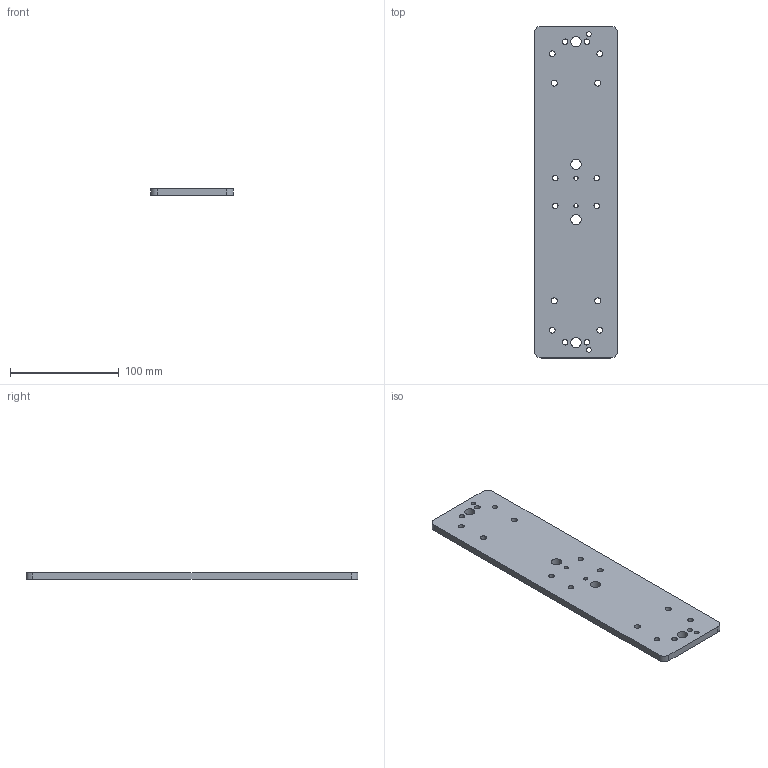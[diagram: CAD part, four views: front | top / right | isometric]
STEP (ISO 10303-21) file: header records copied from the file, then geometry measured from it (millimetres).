
FILE_DESCRIPTION (( 'STEP AP203' ), '1' );
FILE_NAME ('AFSB-621-L300.STEP', '2020-12-03T14:17:21', ( '' ), ( '' ), 'SwSTEP 2.0', 'SolidWorks 2020', '' );
FILE_SCHEMA (( 'CONFIG_CONTROL_DESIGN' ));
Length unit declared in the file: inch
Products named in the file (1): AFSB-621-L300
Bounding box: 76.2 x 304.8 x 6.35 mm (x, y, z)
Volume: 142979.6 mm3; surface area: 52538.7 mm2
Topology: 1 solids, 1 shells, 34 faces, 100 edges, 68 vertices
Faces by surface type: cylinder 28, plane 6
Full cylindrical faces by diameter (mm): 3.797 x2, 4.2 x2, 5 x4, 5.105 x8, 5.556 x4, 9.525 x4
Entity records: 1191 total; most frequent: DIRECTION 198, CARTESIAN_POINT 171, ORIENTED_EDGE 144, EDGE_LOOP 106, AXIS2_PLACEMENT_3D 91, EDGE_CURVE 72, VERTEX_POINT 64, FACE_OUTER_BOUND 58
